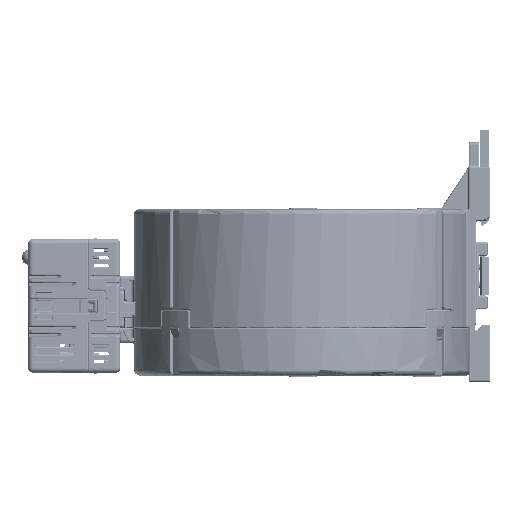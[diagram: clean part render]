
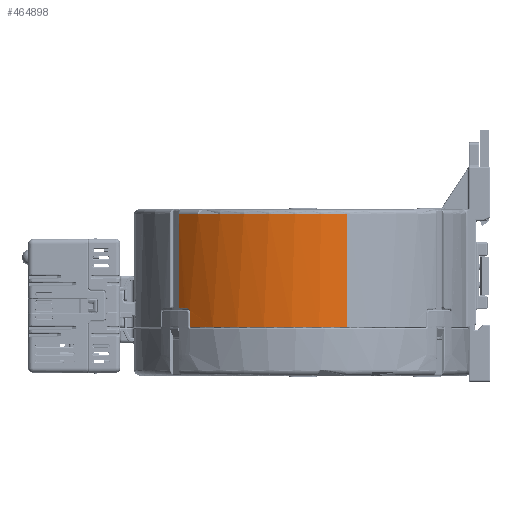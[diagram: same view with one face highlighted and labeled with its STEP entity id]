
A CAD part, left-side view. The second image highlights one B-rep face of the part: STEP entity #464898.
In plain terms, the highlighted cylindrical face has radius 55.4 mm (diameter 110.8 mm), a partial arc.
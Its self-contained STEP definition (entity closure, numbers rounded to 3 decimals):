
#792 = CARTESIAN_POINT ( 'NONE',  ( -37.668, 40.624, -1.5 ) ) ;
#9740 = CARTESIAN_POINT ( 'NONE',  ( 0., 0., 0. ) ) ;
#23688 = CARTESIAN_POINT ( 'NONE',  ( -38.075, 40.242, -32.381 ) ) ;
#40464 = CARTESIAN_POINT ( 'NONE',  ( -53.512, -14.339, -1.5 ) ) ;
#41713 = CARTESIAN_POINT ( 'NONE',  ( -41.205, 37.031, 0. ) ) ;
#42527 = CARTESIAN_POINT ( 'NONE',  ( -41.205, 37.031, -38.25 ) ) ;
#49748 = ORIENTED_EDGE ( 'NONE', *, *, #92507, .T. ) ;
#51508 = VERTEX_POINT ( 'NONE', #66580 ) ;
#66580 = CARTESIAN_POINT ( 'NONE',  ( -41.374, 36.842, -38.5 ) ) ;
#77406 = ORIENTED_EDGE ( 'NONE', *, *, #175699, .T. ) ;
#92507 = EDGE_CURVE ( 'NONE', #134599, #191430, #288207, .T. ) ;
#95659 = CARTESIAN_POINT ( 'NONE',  ( -37.668, 40.624, 0. ) ) ;
#99574 = CARTESIAN_POINT ( 'NONE',  ( -37.729, 40.568, -32.043 ) ) ;
#101963 = CARTESIAN_POINT ( 'NONE',  ( -38.146, 40.175, -32.4 ) ) ;
#109261 = DIRECTION ( 'NONE',  ( 0., 0., 1. ) ) ;
#109987 = B_SPLINE_CURVE_WITH_KNOTS ( 'NONE', 3,
 ( #320480, #359661, #99574, #251546, #283572, #23688, #101963, #212269 ),
 .UNSPECIFIED., .F., .F.,
 ( 4, 2, 2, 4 ),
 ( 0., 0.001, 0.001, 0.001 ),
 .UNSPECIFIED. ) ;
#118350 = CARTESIAN_POINT ( 'NONE',  ( -41.374, 36.842, -38.5 ) ) ;
#125346 = CARTESIAN_POINT ( 'NONE',  ( -41.205, 37.031, -33.65 ) ) ;
#128589 = EDGE_CURVE ( 'NONE', #51508, #434572, #398015, .T. ) ;
#133863 = FACE_OUTER_BOUND ( 'NONE', #200997, .T. ) ;
#134599 = VERTEX_POINT ( 'NONE', #353737 ) ;
#138448 = ORIENTED_EDGE ( 'NONE', *, *, #372477, .T. ) ;
#141218 = CARTESIAN_POINT ( 'NONE',  ( -40.349, 37.962, -32.4 ) ) ;
#143623 = CARTESIAN_POINT ( 'NONE',  ( -41.033, 37.222, -32.878 ) ) ;
#147056 = AXIS2_PLACEMENT_3D ( 'NONE', #344730, #109261, #190080 ) ;
#148470 = CARTESIAN_POINT ( 'NONE',  ( -40.463, 37.841, -32.4 ) ) ;
#149574 = DIRECTION ( 'NONE',  ( 0., 0., -1. ) ) ;
#150373 = DIRECTION ( 'NONE',  ( 0., 0., -1. ) ) ;
#151522 = CARTESIAN_POINT ( 'NONE',  ( 0., 0., -38.5 ) ) ;
#154418 = LINE ( 'NONE', #41713, #448242 ) ;
#160056 = CARTESIAN_POINT ( 'NONE',  ( -41.205, 37.031, -38.316 ) ) ;
#160802 = VERTEX_POINT ( 'NONE', #40464 ) ;
#169277 = VERTEX_POINT ( 'NONE', #125346 ) ;
#175380 = CARTESIAN_POINT ( 'NONE',  ( -41.205, 37.031, -38.25 ) ) ;
#175699 = EDGE_CURVE ( 'NONE', #169277, #243884, #154418, .T. ) ;
#178112 = CARTESIAN_POINT ( 'NONE',  ( -37.668, 40.624, -31.65 ) ) ;
#180414 = CARTESIAN_POINT ( 'NONE',  ( -41.286, 36.94, -38.473 ) ) ;
#183332 = DIRECTION ( 'NONE',  ( 0., 0., 1. ) ) ;
#185121 = CARTESIAN_POINT ( 'NONE',  ( -41.205, 37.031, -33.65 ) ) ;
#188909 = VERTEX_POINT ( 'NONE', #178112 ) ;
#190080 = DIRECTION ( 'NONE',  ( -0.966, -0.259, 0. ) ) ;
#191430 = VERTEX_POINT ( 'NONE', #275719 ) ;
#194477 = AXIS2_PLACEMENT_3D ( 'NONE', #151522, #183332, #303604 ) ;
#198650 = LINE ( 'NONE', #95659, #269834 ) ;
#200997 = EDGE_LOOP ( 'NONE', ( #293100, #338146, #437061, #408068, #49748, #383444, #77406, #138448, #475949 ) ) ;
#201063 = DIRECTION ( 'NONE',  ( 0., 0., -1. ) ) ;
#204316 = EDGE_CURVE ( 'NONE', #415334, #188909, #198650, .T. ) ;
#207306 = DIRECTION ( 'NONE',  ( -0.966, -0.259, 0. ) ) ;
#207660 = AXIS2_PLACEMENT_3D ( 'NONE', #9740, #232714, #207306 ) ;
#212269 = CARTESIAN_POINT ( 'NONE',  ( -38.218, 40.107, -32.4 ) ) ;
#214735 = CARTESIAN_POINT ( 'NONE',  ( -40.574, 37.722, -32.432 ) ) ;
#232714 = DIRECTION ( 'NONE',  ( 0., 0., -1. ) ) ;
#243884 = VERTEX_POINT ( 'NONE', #175380 ) ;
#251546 = CARTESIAN_POINT ( 'NONE',  ( -37.881, 40.425, -32.25 ) ) ;
#256923 = EDGE_CURVE ( 'NONE', #160802, #434572, #339297, .T. ) ;
#258343 = DIRECTION ( 'NONE',  ( 0.966, 0.259, 0. ) ) ;
#269834 = VECTOR ( 'NONE', #201063, 1000. ) ;
#275719 = CARTESIAN_POINT ( 'NONE',  ( -40.349, 37.962, -32.4 ) ) ;
#283572 = CARTESIAN_POINT ( 'NONE',  ( -37.942, 40.368, -32.306 ) ) ;
#288207 = CIRCLE ( 'NONE', #147056, 55.4 ) ;
#290846 = CARTESIAN_POINT ( 'NONE',  ( -40.871, 37.399, -32.653 ) ) ;
#293100 = ORIENTED_EDGE ( 'NONE', *, *, #256923, .F. ) ;
#295683 = CARTESIAN_POINT ( 'NONE',  ( -40.729, 37.554, -32.525 ) ) ;
#298119 = CARTESIAN_POINT ( 'NONE',  ( -40.778, 37.501, -32.563 ) ) ;
#302402 = CARTESIAN_POINT ( 'NONE',  ( -53.512, -14.339, 0. ) ) ;
#303582 = EDGE_CURVE ( 'NONE', #160802, #415334, #322967, .T. ) ;
#303604 = DIRECTION ( 'NONE',  ( 0.966, 0.259, 0. ) ) ;
#308725 = VECTOR ( 'NONE', #452076, 1000. ) ;
#309759 = CARTESIAN_POINT ( 'NONE',  ( -41.224, 37.01, -38.381 ) ) ;
#320480 = CARTESIAN_POINT ( 'NONE',  ( -37.668, 40.624, -31.65 ) ) ;
#322967 = CIRCLE ( 'NONE', #362117, 55.4 ) ;
#330176 = CARTESIAN_POINT ( 'NONE',  ( -40.915, 37.351, -32.706 ) ) ;
#332086 = CARTESIAN_POINT ( 'NONE',  ( 0., 0., -1.5 ) ) ;
#338146 = ORIENTED_EDGE ( 'NONE', *, *, #303582, .T. ) ;
#339297 = LINE ( 'NONE', #302402, #308725 ) ;
#342281 = B_SPLINE_CURVE_WITH_KNOTS ( 'NONE', 3,
 ( #141218, #148470, #214735, #295683, #298119, #290846, #330176, #143623, #445421, #442997, #447790, #185121 ),
 .UNSPECIFIED., .F., .F.,
 ( 4, 2, 2, 2, 2, 4 ),
 ( 0., 0., 0.001, 0.001, 0.001, 0.002 ),
 .UNSPECIFIED. ) ;
#344730 = CARTESIAN_POINT ( 'NONE',  ( 0., 0., -32.4 ) ) ;
#353541 = CARTESIAN_POINT ( 'NONE',  ( -53.512, -14.339, -38.5 ) ) ;
#353737 = CARTESIAN_POINT ( 'NONE',  ( -38.218, 40.107, -32.4 ) ) ;
#359661 = CARTESIAN_POINT ( 'NONE',  ( -37.668, 40.624, -31.849 ) ) ;
#362117 = AXIS2_PLACEMENT_3D ( 'NONE', #332086, #150373, #258343 ) ;
#370190 = B_SPLINE_CURVE_WITH_KNOTS ( 'NONE', 3,
 ( #42527, #160056, #309759, #180414, #459401, #118350 ),
 .UNSPECIFIED., .F., .F.,
 ( 4, 2, 4 ),
 ( 0., 0., 0. ),
 .UNSPECIFIED. ) ;
#372477 = EDGE_CURVE ( 'NONE', #243884, #51508, #370190, .T. ) ;
#383444 = ORIENTED_EDGE ( 'NONE', *, *, #464511, .T. ) ;
#398015 = CIRCLE ( 'NONE', #194477, 55.4 ) ;
#408068 = ORIENTED_EDGE ( 'NONE', *, *, #479948, .T. ) ;
#415334 = VERTEX_POINT ( 'NONE', #792 ) ;
#424057 = CYLINDRICAL_SURFACE ( 'NONE', #207660, 55.4 ) ;
#434572 = VERTEX_POINT ( 'NONE', #353541 ) ;
#437061 = ORIENTED_EDGE ( 'NONE', *, *, #204316, .T. ) ;
#442997 = CARTESIAN_POINT ( 'NONE',  ( -41.182, 37.056, -33.319 ) ) ;
#445421 = CARTESIAN_POINT ( 'NONE',  ( -41.097, 37.151, -33.018 ) ) ;
#447790 = CARTESIAN_POINT ( 'NONE',  ( -41.205, 37.031, -33.484 ) ) ;
#448242 = VECTOR ( 'NONE', #149574, 1000. ) ;
#452076 = DIRECTION ( 'NONE',  ( 0., 0., -1. ) ) ;
#459401 = CARTESIAN_POINT ( 'NONE',  ( -41.33, 36.892, -38.5 ) ) ;
#464511 = EDGE_CURVE ( 'NONE', #191430, #169277, #342281, .T. ) ;
#464898 = ADVANCED_FACE ( 'NONE', ( #133863 ), #424057, .T. ) ;
#475949 = ORIENTED_EDGE ( 'NONE', *, *, #128589, .T. ) ;
#479948 = EDGE_CURVE ( 'NONE', #188909, #134599, #109987, .T. ) ;
